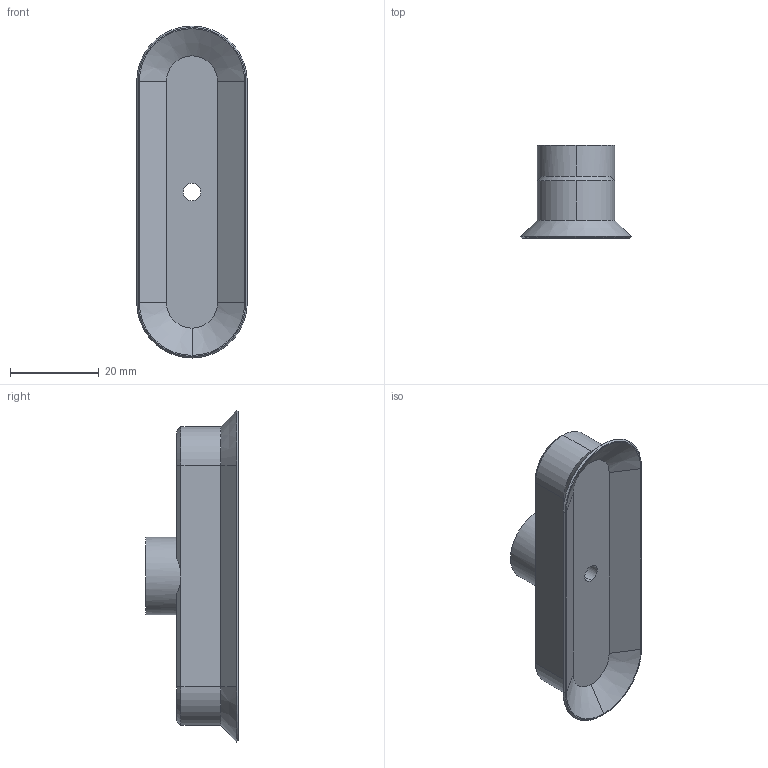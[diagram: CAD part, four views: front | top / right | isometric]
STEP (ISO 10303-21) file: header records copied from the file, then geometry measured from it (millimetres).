
FILE_DESCRIPTION (( 'STEP AP214' ), '1' );
FILE_NAME ('VS-PO2575.STEP', '2019-11-13T09:19:28', ( '微软用户' ), ( '微软中国' ), 'SwSTEP 2.0', 'SolidWorks 2016', '' );
FILE_SCHEMA (( 'AUTOMOTIVE_DESIGN' ));
Length unit declared in the file: millimetre
Products named in the file (1): VS-PO2575
Bounding box: 25 x 21 x 75 mm (x, y, z)
Volume: 12717.3 mm3; surface area: 6349 mm2
Topology: 1 solids, 1 shells, 53 faces, 116 edges, 70 vertices
Faces by surface type: plane 21, cylinder 19, cone 11, bspline 2
Entity records: 1510 total; most frequent: CARTESIAN_POINT 282, DIRECTION 272, ORIENTED_EDGE 232, EDGE_CURVE 116, AXIS2_PLACEMENT_3D 108, VERTEX_POINT 70, EDGE_LOOP 60, VECTOR 56
